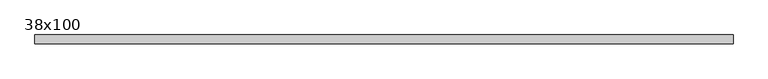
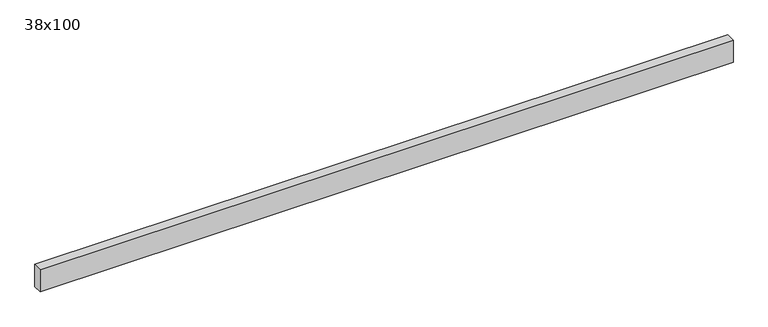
"""IFC4 building model written with IfcOpenShell, lengths in millimetres: beam geometry, Poutre - Bois de construction de dimensions courantes : 38x100."""

import ifcopenshell
import ifcopenshell.guid

model = None  # the IFC model being written
_history = None  # IfcOwnerHistory: only IFC2X3 demands one
_inside = {}  # id of a spatial element -> (the spatial element, [elements in it])
_under = {}  # id of a project, library or spatial element -> (it, [spatial elements below it])
_declared = {}  # id of a project -> (the project, [libraries it declares])
_typed = {}  # id of a type object -> (the type object, [elements of that type])
_made_of = {}  # id of a material, layer set ... -> (it, [elements and type objects made of it])


def new_model(schema):
    """Start an empty IFC model of exactly this schema.

    Asked for "IFC4X3", IfcOpenShell would pick the latest addendum, in which some entities
    have other attributes; the version numbers below select the first issue.
    IFC2X3 requires an IfcOwnerHistory on every rooted entity: one is made here for all.
    """
    global model, _history
    if schema == "IFC4X3":
        model = ifcopenshell.file(schema_version=(4, 3, 0, 0))
    else:
        model = ifcopenshell.file(schema=schema)
    _inside.clear()
    _under.clear()
    _declared.clear()
    _typed.clear()
    _made_of.clear()
    _history = None
    if model.schema == "IFC2X3":
        org = make("IfcOrganization", Name="unknown")
        user = make(
            "IfcPersonAndOrganization",
            ThePerson=make("IfcPerson", FamilyName="unknown"),
            TheOrganization=org,
        )
        app = make(
            "IfcApplication",
            ApplicationDeveloper=org,
            Version="unknown",
            ApplicationFullName="unknown",
            ApplicationIdentifier="unknown",
        )
        _history = make(
            "IfcOwnerHistory",
            OwningUser=user,
            OwningApplication=app,
            ChangeAction="ADDED",
            CreationDate=0,
        )
    return model


def make(cls, **values):
    """One entity of the class cls with the attributes given. An attribute that is None is left unset."""
    return model.create_entity(
        cls, **{name: value for name, value in values.items() if value is not None}
    )


def rooted(cls, **values):
    """An entity with a GlobalId (a new one), such as an element, a storey or a relation."""
    return make(cls, GlobalId=ifcopenshell.guid.new(), OwnerHistory=_history, **values)


def si_unit(unit_type, name, prefix=None):
    """IfcSIUnit, for example si_unit("LENGTHUNIT", "METRE", prefix="MILLI")."""
    return make("IfcSIUnit", UnitType=unit_type, Prefix=prefix, Name=name)


def assignment(units):
    """IfcUnitAssignment: the units of a project."""
    return None if units is None else make("IfcUnitAssignment", Units=units)


def point(xyz):
    """IfcCartesianPoint."""
    return None if xyz is None else make("IfcCartesianPoint", Coordinates=xyz)


def direction(xyz):
    """IfcDirection."""
    return None if xyz is None else make("IfcDirection", DirectionRatios=xyz)


def frame(location, z_axis=None, x_axis=None):
    """IfcAxis2Placement3D, a coordinate frame: its origin and axes. An axis left out is left unset."""
    return make(
        "IfcAxis2Placement3D",
        Location=point(location),
        Axis=direction(z_axis),
        RefDirection=direction(x_axis),
    )


def origin():
    """The frame at (0, 0, 0) with its axes left unset."""
    return frame((0.0, 0.0, 0.0))


def place(relative_to, where):
    """IfcLocalPlacement: puts the frame where relative to a parent placement (None: the world)."""
    return make(
        "IfcLocalPlacement", PlacementRelTo=relative_to, RelativePlacement=where
    )


def context(
    kind, dimensions, precision=None, world=None, true_north=None, identifier=None
):
    """IfcGeometricRepresentationContext, for example the 3D "Model" context."""
    return make(
        "IfcGeometricRepresentationContext",
        ContextIdentifier=identifier,
        ContextType=kind,
        CoordinateSpaceDimension=dimensions,
        Precision=precision,
        WorldCoordinateSystem=world,
        TrueNorth=true_north,
    )


def project(units=None, contexts=None):
    """IfcProject with its units and contexts."""
    return rooted(
        "IfcProject",
        Name="project",
        RepresentationContexts=contexts,
        UnitsInContext=assignment(units),
    )


def spatial(cls, under=None, at=None, **own):
    """A site, building, storey or space (cls), placed at a placement, below another one or the project."""
    s = rooted(cls, ObjectPlacement=at, **own)
    if under is not None:
        _under.setdefault(under.id(), (under, []))[1].append(s)
    return s


def polyline(points):
    """IfcPolyline through the points."""
    return make("IfcPolyline", Points=[point(p) for p in points])


def outline(outer, holes=None, kind="AREA"):
    """IfcArbitraryClosedProfileDef: a profile drawn as a closed curve; with holes, ...WithVoids."""
    if holes is None:
        return make("IfcArbitraryClosedProfileDef", ProfileType=kind, OuterCurve=outer)
    return make(
        "IfcArbitraryProfileDefWithVoids",
        ProfileType=kind,
        OuterCurve=outer,
        InnerCurves=holes,
    )


def extrude(swept, where, along, depth):
    """IfcExtrudedAreaSolid: the profile swept, set in the frame where, extruded along a direction by depth."""
    return make(
        "IfcExtrudedAreaSolid",
        SweptArea=swept,
        Position=where,
        ExtrudedDirection=direction(along),
        Depth=depth,
    )


def shape(context_of_items, identifier, shape_type, items):
    """IfcShapeRepresentation: the items that make up one representation, for example the "Body"."""
    return make(
        "IfcShapeRepresentation",
        ContextOfItems=context_of_items,
        RepresentationIdentifier=identifier,
        RepresentationType=shape_type,
        Items=items,
    )


def source(mapping_origin, context_of_items, identifier, shape_type, items):
    """IfcRepresentationMap: a shape defined once, which mapped items show again and again."""
    return make(
        "IfcRepresentationMap",
        MappingOrigin=mapping_origin,
        MappedRepresentation=shape(context_of_items, identifier, shape_type, items),
    )


def transform(
    local_origin,
    x_axis=None,
    y_axis=None,
    z_axis=None,
    scale=None,
    scale2=None,
    scale3=None,
    uniform=True,
):
    """IfcCartesianTransformationOperator3D, or its non-uniform kind. x_axis, y_axis, z_axis: its Axis1, 2, 3."""
    if uniform:
        return make(
            "IfcCartesianTransformationOperator3D",
            Axis1=direction(x_axis),
            Axis2=direction(y_axis),
            LocalOrigin=point(local_origin),
            Scale=scale,
            Axis3=direction(z_axis),
        )
    return make(
        "IfcCartesianTransformationOperator3DnonUniform",
        Axis1=direction(x_axis),
        Axis2=direction(y_axis),
        LocalOrigin=point(local_origin),
        Scale=scale,
        Axis3=direction(z_axis),
        Scale2=scale2,
        Scale3=scale3,
    )


def mapped(mapping_source, mapping_target):
    """IfcMappedItem: shows the shape of a source again, moved by a transform."""
    return make(
        "IfcMappedItem", MappingSource=mapping_source, MappingTarget=mapping_target
    )


def made_of(thing, what):
    """Note that an element or type object is made of a material, layer set ...; save() writes the relation."""
    if what is not None:
        _made_of.setdefault(what.id(), (what, []))[1].append(thing)
    return thing


def element(
    cls,
    number,
    at=None,
    inside=None,
    cuts=None,
    type_object=None,
    material=None,
    context=None,
    identifier="Body",
    shape_type=None,
    held_by="IfcProductDefinitionShape",
    body=None,
    shapes=None,
    **own,
):
    """One element of the class cls, such as IfcWall. Its Tag is "e" and its number.

    at: its placement. inside: the storey or other place that contains it. cuts: it is an
    opening in that element (IfcRelVoidsElement). A single representation is given by context,
    identifier, shape_type and body (its items); several are given by shapes. held_by: the class
    of the entity that holds the representations. save() writes the other relations.
    """
    e = rooted(cls, Tag="e%d" % number, ObjectPlacement=at, **own)
    if body is not None:
        shapes = [shape(context, identifier, shape_type, body)]
    if shapes is not None:
        e.Representation = make(held_by, Representations=shapes)
    if inside is not None:
        _inside.setdefault(inside.id(), (inside, []))[1].append(e)
    if cuts is not None:
        rooted(
            "IfcRelVoidsElement", RelatingBuildingElement=cuts, RelatedOpeningElement=e
        )
    if type_object is not None:
        _typed.setdefault(type_object.id(), (type_object, []))[1].append(e)
    return made_of(e, material)


def aggregate(whole, parts):
    """IfcRelAggregates: a whole, such as a stair, and the parts it consists of."""
    return rooted("IfcRelAggregates", RelatingObject=whole, RelatedObjects=parts)


def save(model, path):
    """Write the relations noted so far, then the file.

    IfcRelAggregates (storeys below a building ...), IfcRelContainedInSpatialStructure (elements
    in a storey), IfcRelDefinesByType, IfcRelAssociatesMaterial and IfcRelDeclares: one each for
    every whole, place, type object, material and project.
    """
    for whole, parts in _under.values():
        aggregate(whole, parts)
    for where, things in _inside.values():
        rooted(
            "IfcRelContainedInSpatialStructure",
            RelatedElements=things,
            RelatingStructure=where,
        )
    for kind, things in _typed.values():
        rooted("IfcRelDefinesByType", RelatedObjects=things, RelatingType=kind)
    for what, things in _made_of.values():
        rooted("IfcRelAssociatesMaterial", RelatedObjects=things, RelatingMaterial=what)
    for by, libraries in _declared.values():
        rooted("IfcRelDeclares", RelatingContext=by, RelatedDefinitions=libraries)
    model.write(path)


def beam_38x100_a2fdaeb6(model_context):
    return source(origin(), model_context, "Body", "SweptSolid", [
        extrude(outline(polyline([(1387.5, 19.05), (1387.5, -19.05), (-1547.5, -19.05), (-1547.5, 19.05), (1387.5, 19.05)])), frame((0.0, 0.0, -50.0), z_axis=(0.0, 0.0, 1.0), x_axis=(1.0, 0.0, 0.0)), (0.0, 0.0, 1.0), 100.0),
    ])


if __name__ == "__main__":
    model = new_model("IFC4")
    model_context = context("Model", 3, world=origin())
    ifc_project = project(units=[si_unit("LENGTHUNIT", "METRE", prefix="MILLI")], contexts=[model_context])
    site = spatial("IfcSite", under=ifc_project)
    building = spatial("IfcBuilding", under=site)
    placement = place(None, origin())
    beam_38x100_shape = beam_38x100_a2fdaeb6(model_context)
    element("IfcBeam", 1, ObjectType="Poutre - Bois de construction de dimensions courantes : 38x100", at=placement, inside=building, context=model_context, shape_type="MappedRepresentation", body=[
        mapped(beam_38x100_shape, transform((0.0, 0.0, 0.0), x_axis=(1.0, 0.0, 0.0), y_axis=(0.0, 1.0, 0.0), z_axis=(0.0, 0.0, 1.0))),
    ])
    save(model, "model.ifc")
